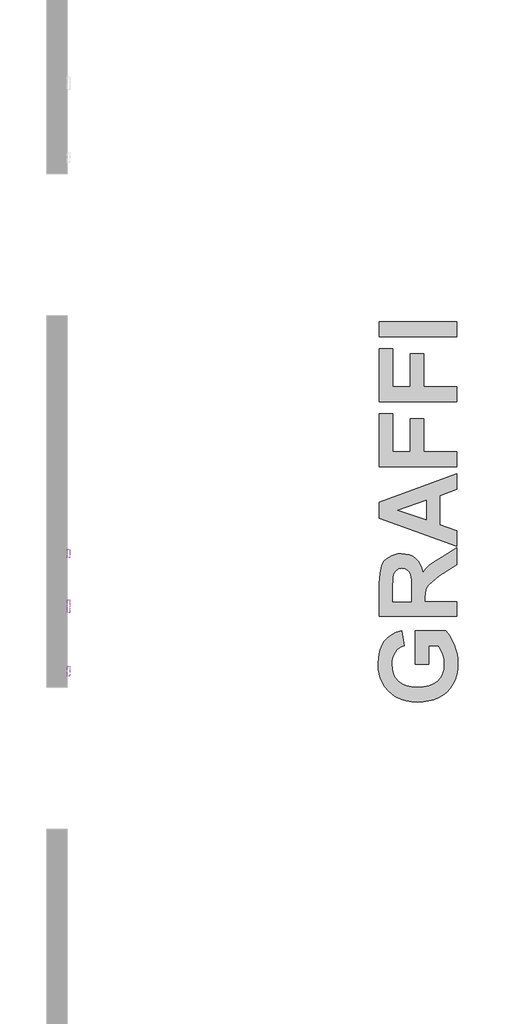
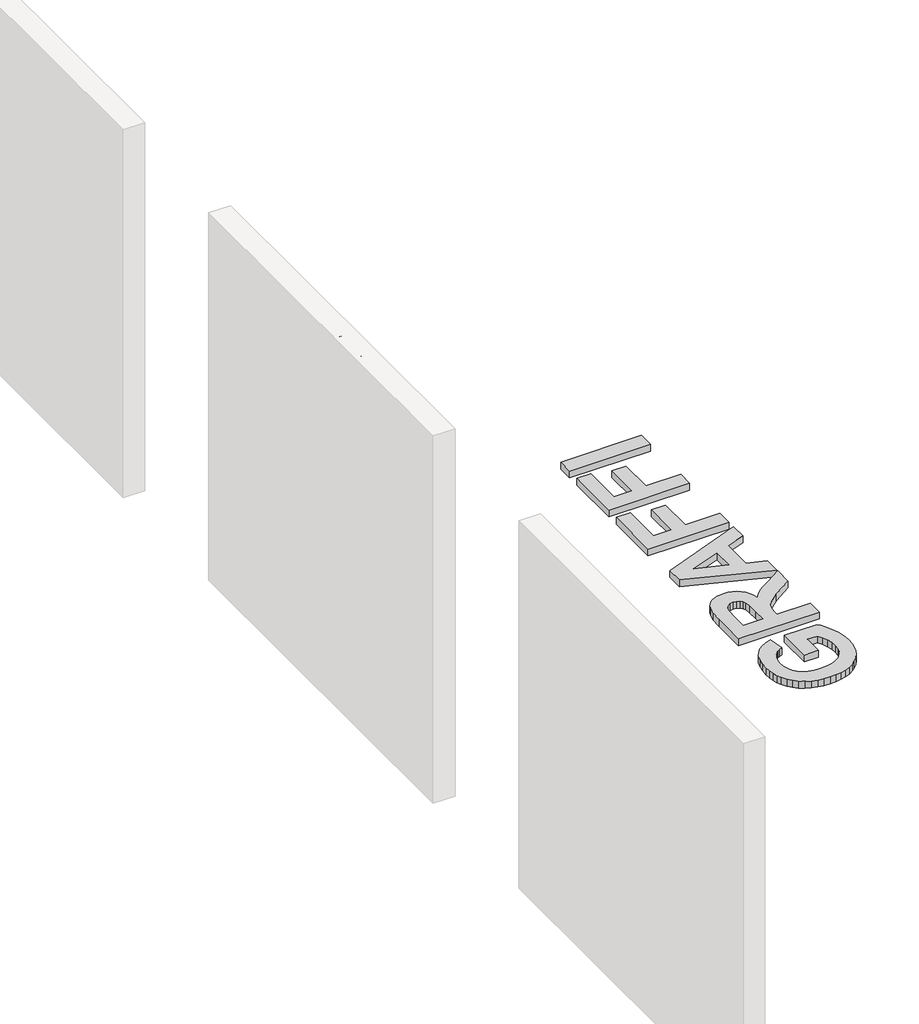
# One storey, part 6 of 17: 4 proxies.
"""IFC4 building model written with IfcOpenShell, lengths in millimetres."""

from ifc_helpers import new_model, si_unit, frame, origin, origin_with_axes, place, context, project, spatial, polyline, outline, extrude, element, save

model = new_model("IFC4")

# Units and contexts
model_context = context("Model", 3, world=origin())
ifc_project = project(units=[si_unit("LENGTHUNIT", "METRE", prefix="MILLI")], contexts=[model_context])

# Site, building, storey
site = spatial("IfcSite", under=ifc_project)
building = spatial("IfcBuilding", under=site)
storey = spatial("IfcBuildingStorey", under=building, Name="PORTOBELLO - SHOWROOM", Elevation=0.0)

# Proxies
placement = place(None, origin())
element("IfcBuildingElementProxy", 1, Name="10mm Arial", ObjectType="10mm Arial", at=placement, inside=storey, context=model_context, shape_type="SweptSolid", body=[
    extrude(outline(polyline([(-3885.2757787, 2518.4745677), (-3925.2277634, 2618.9308778), (-3911.7878078, 2618.9308778), (-3885.030524, 2546.5562266), (-3879.610396, 2530.2467915), (-3874.2638443, 2546.5562266), (-3847.4329841, 2618.9308778), (-3834.017554, 2618.9308778), (-3872.3263325, 2518.4745677), (-3885.2757787, 2518.4745677)])), frame((-7622.2794626, 0.0, 0.0), z_axis=(1.0, 0.0, 0.0), x_axis=(0.0, 1.0, 0.0)), (0.0, 0.0, 1.0), 20.0),
    extrude(outline(polyline([(-3776.7996411, 2527.8923467), (-3788.9765351, 2519.3820099), (-3802.4287534, 2516.9049378), (-3812.9225873, 2518.3948599), (-3820.6634376, 2522.8646261), (-3825.4367065, 2529.6520489), (-3827.0277961, 2538.0949407), (-3824.6243004, 2548.0277546), (-3818.3089928, 2555.2382417), (-3809.5166132, 2559.3585201), (-3798.6518316, 2561.246981), (-3776.8732175, 2565.563463), (-3776.7996411, 2568.3593662), (-3780.2577318, 2577.6299925), (-3794.1391458, 2581.2597615), (-3806.8433373, 2578.8440031), (-3812.9011275, 2570.2723526), (-3825.4581663, 2571.8419824), (-3820.0257755, 2584.1047156), (-3809.0874175, 2591.2906772), (-3792.520465, 2593.8168003), (-3777.3024131, 2591.5849828), (-3768.7062372, 2585.9809138), (-3764.855739, 2577.4583142), (-3764.2426023, 2566.4709053), (-3764.2426023, 2550.8481832), (-3763.6049402, 2529.0327809), (-3761.1033426, 2518.4745677), (-3773.6603814, 2518.4745677), (-3776.7996411, 2527.8923467)]), holes=[polyline([(-3776.7996411, 2553.0064243), (-3797.0576763, 2549.1559261), (-3807.8611442, 2547.1203124), (-3812.7539747, 2543.8093744), (-3814.4707574, 2538.9778575), (-3810.7306237, 2532.1843033), (-3799.7554776, 2529.4619766), (-3787.051286, 2532.4663462), (-3778.8597802, 2539.738147), (-3776.8732175, 2549.4502317), (-3776.7996411, 2553.0064243)])]), frame((-7622.2794626, 0.0, 0.0), z_axis=(1.0, 0.0, 0.0), x_axis=(0.0, 1.0, 0.0)), (0.0, 0.0, 1.0), 20.0),
    extrude(outline(polyline([(-3746.976674, 2518.4745677), (-3746.976674, 2592.2471704), (-3734.4196352, 2592.2471704), (-3734.4196352, 2581.9464746), (-3724.8179151, 2590.8492188), (-3711.7090534, 2593.8168003), (-3699.8509904, 2591.4255673), (-3691.7575865, 2585.1470479), (-3687.9929274, 2575.9132098), (-3687.3307398, 2563.773104), (-3687.3307398, 2518.4745677), (-3699.8877786, 2518.4745677), (-3699.8877786, 2562.0808468), (-3701.3347811, 2573.1908831), (-3706.4483408, 2579.0647323), (-3715.0690423, 2581.2597615), (-3728.6929388, 2576.3301428), (-3732.9879611, 2569.1871007), (-3734.4196352, 2557.6172119), (-3734.4196352, 2518.4745677), (-3746.976674, 2518.4745677)])), frame((-7622.2794626, 0.0, 0.0), z_axis=(1.0, 0.0, 0.0), x_axis=(0.0, 1.0, 0.0)), (0.0, 0.0, 1.0), 20.0),
    extrude(outline(polyline([(-7602.2794626, -3657.5077728), (-7602.2794626, -3670.0648115), (-7622.2794626, -3670.0648115), (-7622.2794626, -3657.5077728), (-7602.2794626, -3657.5077728)])), frame((0.0, 0.0, 2606.373839), z_axis=(0.0, 0.0, 1.0), x_axis=(1.0, 0.0, 0.0)), (0.0, 0.0, 1.0), 12.5570388),
    extrude(outline(polyline([(-7602.2794626, -3657.5077728), (-7602.2794626, -3670.0648115), (-7622.2794626, -3670.0648115), (-7622.2794626, -3657.5077728), (-7602.2794626, -3657.5077728)])), frame((0.0, 0.0, 2518.4745677), z_axis=(0.0, 0.0, 1.0), x_axis=(1.0, 0.0, 0.0)), (0.0, 0.0, 1.0), 73.7726028),
    extrude(outline(polyline([(-7602.2794626, -3626.1151758), (-7602.2794626, -3638.6722146), (-7622.2794626, -3638.6722146), (-7622.2794626, -3626.1151758), (-7602.2794626, -3626.1151758)])), frame((0.0, 0.0, 2518.4745677), z_axis=(0.0, 0.0, 1.0), x_axis=(1.0, 0.0, 0.0)), (0.0, 0.0, 1.0), 100.4563101),
    extrude(outline(polyline([(-7602.2794626, -3594.7225789), (-7602.2794626, -3607.2796177), (-7622.2794626, -3607.2796177), (-7622.2794626, -3594.7225789), (-7602.2794626, -3594.7225789)])), frame((0.0, 0.0, 2518.4745677), z_axis=(0.0, 0.0, 1.0), x_axis=(1.0, 0.0, 0.0)), (0.0, 0.0, 1.0), 100.4563101),
    extrude(outline(polyline([(-3528.7981254, 2527.8923467), (-3540.9750194, 2519.3820099), (-3554.4272377, 2516.9049378), (-3564.9210716, 2518.3948599), (-3572.6619219, 2522.8646261), (-3577.4351908, 2529.6520489), (-3579.0262805, 2538.0949407), (-3576.6227848, 2548.0277546), (-3570.3074772, 2555.2382417), (-3561.5150975, 2559.3585201), (-3550.6503159, 2561.246981), (-3528.8717018, 2565.563463), (-3528.7981254, 2568.3593662), (-3532.2562161, 2577.6299925), (-3546.1376301, 2581.2597615), (-3558.8418217, 2578.8440031), (-3564.8996118, 2570.2723526), (-3577.4566506, 2571.8419824), (-3572.0242598, 2584.1047156), (-3561.0859018, 2591.2906772), (-3544.5189493, 2593.8168003), (-3529.3008974, 2591.5849828), (-3520.7047215, 2585.9809138), (-3516.8542233, 2577.4583142), (-3516.2410866, 2566.4709053), (-3516.2410866, 2550.8481832), (-3515.6034245, 2529.0327809), (-3513.1018269, 2518.4745677), (-3525.6588657, 2518.4745677), (-3528.7981254, 2527.8923467)]), holes=[polyline([(-3528.7981254, 2553.0064243), (-3549.0561606, 2549.1559261), (-3559.8596285, 2547.1203124), (-3564.752459, 2543.8093744), (-3566.4692417, 2538.9778575), (-3562.7291081, 2532.1843033), (-3551.7539619, 2529.4619766), (-3539.0497703, 2532.4663462), (-3530.8582646, 2539.738147), (-3528.8717018, 2549.4502317), (-3528.7981254, 2553.0064243)])]), frame((-7622.2794626, 0.0, 0.0), z_axis=(1.0, 0.0, 0.0), x_axis=(0.0, 1.0, 0.0)), (0.0, 0.0, 1.0), 20.0),
    extrude(outline(polyline([(-3411.0758869, 2557.7153138), (-3411.0758869, 2570.2723526), (-3370.2655109, 2570.2723526), (-3370.2655109, 2532.7238636), (-3390.4131815, 2520.8780634), (-3411.713549, 2516.9049378), (-3425.8003638, 2518.4837647), (-3438.5321465, 2523.2202454), (-3449.1087539, 2530.948833), (-3456.7300425, 2541.5039806), (-3461.3377645, 2554.1652526), (-3462.8736718, 2568.2122134), (-3461.3438959, 2582.3603418), (-3456.754568, 2595.5213202), (-3449.2957605, 2606.5608457), (-3439.1575459, 2614.3446156), (-3426.8089736, 2618.9615346), (-3412.7190932, 2620.5005077), (-3393.0741946, 2616.9320523), (-3379.3031453, 2606.9992384), (-3371.7125134, 2590.383235), (-3383.2885336, 2587.121348), (-3389.0152299, 2598.7341563), (-3398.800891, 2605.4296086), (-3412.9152969, 2607.9434689), (-3428.9917401, 2605.2334049), (-3439.9300981, 2598.1210196), (-3446.3925585, 2588.4457231), (-3450.3166331, 2568.7272482), (-3445.5954808, 2546.8382695), (-3431.8612196, 2533.7416705), (-3412.7190932, 2529.4619766), (-3395.539004, 2532.6870754), (-3382.8225497, 2539.5664687), (-3382.8225497, 2557.7153138), (-3411.0758869, 2557.7153138)])), frame((-7622.2794626, 0.0, 0.0), z_axis=(1.0, 0.0, 0.0), x_axis=(0.0, 1.0, 0.0)), (0.0, 0.0, 1.0), 20.0),
    extrude(outline(polyline([(-3351.4299528, 2518.4745677), (-3351.4299528, 2592.2471704), (-3340.4425438, 2592.2471704), (-3340.4425438, 2581.3333379), (-3332.6434456, 2591.3887791), (-3324.7952963, 2593.8168003), (-3312.1892066, 2589.9417766), (-3316.3830614, 2578.6845875), (-3325.2122292, 2581.2597615), (-3332.3123518, 2578.7826894), (-3336.8373003, 2571.9155588), (-3338.872914, 2557.24933), (-3338.872914, 2518.4745677), (-3351.4299528, 2518.4745677)])), frame((-7622.2794626, 0.0, 0.0), z_axis=(1.0, 0.0, 0.0), x_axis=(0.0, 1.0, 0.0)), (0.0, 0.0, 1.0), 20.0),
    extrude(outline(polyline([(-3257.252162, 2527.8923467), (-3269.429056, 2519.3820099), (-3282.8812743, 2516.9049378), (-3293.3751082, 2518.3948599), (-3301.1159586, 2522.8646261), (-3305.8892275, 2529.6520489), (-3307.4803171, 2538.0949407), (-3305.0768214, 2548.0277546), (-3298.7615138, 2555.2382417), (-3289.9691341, 2559.3585201), (-3279.1043525, 2561.246981), (-3257.3257384, 2565.563463), (-3257.252162, 2568.3593662), (-3260.7102528, 2577.6299925), (-3274.5916667, 2581.2597615), (-3287.2958583, 2578.8440031), (-3293.3536485, 2570.2723526), (-3305.9106872, 2571.8419824), (-3300.4782964, 2584.1047156), (-3289.5399384, 2591.2906772), (-3272.9729859, 2593.8168003), (-3257.7549341, 2591.5849828), (-3249.1587581, 2585.9809138), (-3245.3082599, 2577.4583142), (-3244.6951232, 2566.4709053), (-3244.6951232, 2550.8481832), (-3244.0574611, 2529.0327809), (-3241.5558635, 2518.4745677), (-3254.1129023, 2518.4745677), (-3257.252162, 2527.8923467)]), holes=[polyline([(-3257.252162, 2553.0064243), (-3277.5101972, 2549.1559261), (-3288.3136651, 2547.1203124), (-3293.2064957, 2543.8093744), (-3294.9232783, 2538.9778575), (-3291.1831447, 2532.1843033), (-3280.2079985, 2529.4619766), (-3267.5038069, 2532.4663462), (-3259.3123012, 2539.738147), (-3257.3257384, 2549.4502317), (-3257.252162, 2553.0064243)])]), frame((-7622.2794626, 0.0, 0.0), z_axis=(1.0, 0.0, 0.0), x_axis=(0.0, 1.0, 0.0)), (0.0, 0.0, 1.0), 20.0),
    extrude(outline(polyline([(-3183.4795592, 2518.4745677), (-3183.4795592, 2579.6901317), (-3194.4669682, 2579.6901317), (-3194.4669682, 2592.2471704), (-3183.4795592, 2592.2471704), (-3183.4795592, 2599.6783867), (-3182.1551841, 2610.1507609), (-3175.7295119, 2617.6310281), (-3163.0743712, 2620.5005077), (-3151.6209785, 2619.1270815), (-3153.4603884, 2607.3548577), (-3160.695401, 2607.9434689), (-3168.6048639, 2605.8588043), (-3170.9225205, 2598.0842314), (-3170.9225205, 2592.2471704), (-3156.7958519, 2592.2471704), (-3156.7958519, 2579.6901317), (-3170.9225205, 2579.6901317), (-3170.9225205, 2518.4745677), (-3183.4795592, 2518.4745677)])), frame((-7622.2794626, 0.0, 0.0), z_axis=(1.0, 0.0, 0.0), x_axis=(0.0, 1.0, 0.0)), (0.0, 0.0, 1.0), 20.0),
    extrude(outline(polyline([(-3224.2899352, 2518.4745677), (-3224.2899352, 2579.6901317), (-3235.2773442, 2579.6901317), (-3235.2773442, 2592.2471704), (-3224.2899352, 2592.2471704), (-3224.2899352, 2599.6783867), (-3222.9655601, 2610.1507609), (-3216.5398879, 2617.6310281), (-3203.8847472, 2620.5005077), (-3192.4313545, 2619.1270815), (-3194.2707644, 2607.3548577), (-3201.505777, 2607.9434689), (-3209.4152399, 2605.8588043), (-3211.7328965, 2598.0842314), (-3211.7328965, 2592.2471704), (-3197.6062279, 2592.2471704), (-3197.6062279, 2579.6901317), (-3211.7328965, 2579.6901317), (-3211.7328965, 2518.4745677), (-3224.2899352, 2518.4745677)])), frame((-7622.2794626, 0.0, 0.0), z_axis=(1.0, 0.0, 0.0), x_axis=(0.0, 1.0, 0.0)), (0.0, 0.0, 1.0), 20.0),
    extrude(outline(polyline([(-7602.2794626, -3133.2514042), (-7602.2794626, -3145.8084429), (-7622.2794626, -3145.8084429), (-7622.2794626, -3133.2514042), (-7602.2794626, -3133.2514042)])), frame((0.0, 0.0, 2606.373839), z_axis=(0.0, 0.0, 1.0), x_axis=(1.0, 0.0, 0.0)), (0.0, 0.0, 1.0), 12.5570388),
    extrude(outline(polyline([(-7602.2794626, -3133.2514042), (-7602.2794626, -3145.8084429), (-7622.2794626, -3145.8084429), (-7622.2794626, -3133.2514042), (-7602.2794626, -3133.2514042)])), frame((0.0, 0.0, 2518.4745677), z_axis=(0.0, 0.0, 1.0), x_axis=(1.0, 0.0, 0.0)), (0.0, 0.0, 1.0), 73.7726028),
])
element("IfcBuildingElementProxy", 2, Name="10mm Arial", ObjectType="10mm Arial", at=placement, inside=storey, context=model_context, shape_type="SweptSolid", body=[
    extrude(outline(polyline([(-3878.8255811, 2393.4745677), (-3878.8255811, 2417.0190154), (-3924.3448466, 2417.0190154), (-3924.3448466, 2429.5760541), (-3875.6863214, 2492.361248), (-3866.2685423, 2492.361248), (-3866.2685423, 2429.5760541), (-3853.7115035, 2429.5760541), (-3853.7115035, 2417.0190154), (-3866.2685423, 2417.0190154), (-3866.2685423, 2393.4745677), (-3878.8255811, 2393.4745677)]), holes=[polyline([(-3878.8255811, 2429.5760541), (-3878.8255811, 2468.3753419), (-3908.8938028, 2429.5760541), (-3878.8255811, 2429.5760541)])]), frame((-7622.2794626, 0.0, 0.0), z_axis=(1.0, 0.0, 0.0), x_axis=(0.0, 1.0, 0.0)), (0.0, 0.0, 1.0), 20.0),
    extrude(outline(polyline([(-3842.7240946, 2420.158275), (-3830.1670558, 2421.7279049), (-3823.8394855, 2408.7907214), (-3810.718361, 2404.4619766), (-3801.7175149, 2405.9672271), (-3794.9730116, 2410.4829786), (-3790.7607628, 2417.4880649), (-3789.3566798, 2426.4613199), (-3794.6173924, 2441.3728034), (-3801.2239399, 2445.4746877), (-3810.5221573, 2446.8419824), (-3821.5463544, 2444.6592159), (-3828.597426, 2438.9938332), (-3841.1544648, 2440.563463), (-3830.1670558, 2492.361248), (-3781.5085306, 2492.361248), (-3781.5085306, 2479.8042092), (-3820.0135128, 2479.8042092), (-3825.4091154, 2452.1394832), (-3816.438926, 2457.5841367), (-3807.0395411, 2459.3990212), (-3795.3041054, 2457.1488097), (-3785.5552325, 2450.3981751), (-3778.9885389, 2440.1097419), (-3776.7996411, 2427.2461348), (-3778.7678097, 2414.6890961), (-3784.6723158, 2403.9469418), (-3795.9785557, 2394.9154388), (-3810.7674119, 2391.9049378), (-3823.1006558, 2393.839384), (-3832.9261708, 2399.6427224), (-3839.661477, 2408.6405029), (-3842.7240946, 2420.158275)])), frame((-7622.2794626, 0.0, 0.0), z_axis=(1.0, 0.0, 0.0), x_axis=(0.0, 1.0, 0.0)), (0.0, 0.0, 1.0), 20.0),
    extrude(outline(polyline([(-3770.5211217, 2393.4745677), (-3743.6902615, 2430.5815982), (-3768.9514918, 2467.2471704), (-3753.8928555, 2467.2471704), (-3741.7036987, 2449.5643092), (-3735.9892651, 2441.2501761), (-3731.0351209, 2448.0682557), (-3717.1537069, 2467.2471704), (-3702.0460196, 2467.2471704), (-3728.5825742, 2430.5570728), (-3703.0270383, 2393.4745677), (-3718.1102001, 2393.4745677), (-3733.512193, 2415.792742), (-3736.3080961, 2419.8884949), (-3755.4134344, 2393.4745677), (-3770.5211217, 2393.4745677)])), frame((-7622.2794626, 0.0, 0.0), z_axis=(1.0, 0.0, 0.0), x_axis=(0.0, 1.0, 0.0)), (0.0, 0.0, 1.0), 20.0),
    extrude(outline(polyline([(-3648.0899937, 2393.4745677), (-3660.6470325, 2393.4745677), (-3660.6470325, 2471.7598562), (-3672.5418836, 2463.2863076), (-3685.76111, 2456.9464746), (-3685.76111, 2468.8168003), (-3667.3547475, 2480.5644987), (-3656.1833976, 2493.9308778), (-3648.0899937, 2493.9308778), (-3648.0899937, 2393.4745677)])), frame((-7622.2794626, 0.0, 0.0), z_axis=(1.0, 0.0, 0.0), x_axis=(0.0, 1.0, 0.0)), (0.0, 0.0, 1.0), 20.0),
    extrude(outline(polyline([(-3553.9122029, 2406.0316064), (-3553.9122029, 2393.4745677), (-3619.8366565, 2393.4745677), (-3618.4877558, 2402.1320573), (-3610.848073, 2415.4616482), (-3595.1149864, 2430.0175125), (-3573.4467369, 2450.9377353), (-3568.0388715, 2465.1625058), (-3573.1524313, 2476.6772122), (-3586.5065477, 2481.373839), (-3600.4247498, 2476.7875768), (-3605.7099878, 2464.1079107), (-3618.2670266, 2465.6775406), (-3615.2228031, 2477.8237778), (-3608.6407811, 2486.6958652), (-3598.864317, 2492.1221247), (-3586.2367676, 2493.9308778), (-3573.5172476, 2491.9197896), (-3563.7591777, 2485.8865249), (-3557.551169, 2476.873416), (-3555.4818328, 2465.9227952), (-3557.7136502, 2454.0156813), (-3565.1326038, 2441.7038972), (-3583.1220333, 2424.4992826), (-3597.567533, 2412.4204904), (-3603.2329157, 2406.0316064), (-3553.9122029, 2406.0316064)])), frame((-7622.2794626, 0.0, 0.0), z_axis=(1.0, 0.0, 0.0), x_axis=(0.0, 1.0, 0.0)), (0.0, 0.0, 1.0), 20.0),
    extrude(outline(polyline([(-3541.3551641, 2442.8933823), (-3537.6640815, 2471.7966444), (-3526.701198, 2488.4616988), (-3508.3929374, 2493.9308778), (-3493.7267085, 2490.6935163), (-3483.5976909, 2481.3615763), (-3477.711579, 2466.4991437), (-3475.4307106, 2442.8933823), (-3479.0850051, 2414.1127476), (-3490.0111004, 2397.410905), (-3498.24246, 2393.2814296), (-3508.3929374, 2391.9049378), (-3521.4404855, 2394.2961708), (-3531.3487739, 2401.4698697), (-3538.8535666, 2418.4598865), (-3541.3551641, 2442.8933823)]), holes=[polyline([(-3528.7981254, 2442.9179078), (-3527.3265974, 2423.1657104), (-3522.9120135, 2411.7337774), (-3516.3391885, 2406.2799268), (-3508.3929374, 2404.4619766), (-3500.4466863, 2406.2860581), (-3493.8738613, 2411.7583028), (-3489.4592774, 2423.1963672), (-3487.9877494, 2442.9179078), (-3489.4102264, 2462.2255812), (-3493.6776576, 2473.746419), (-3500.2382198, 2479.466984), (-3508.5400902, 2481.373839), (-3516.4005021, 2479.6938446), (-3522.7158097, 2474.6538613), (-3527.2775465, 2462.4156536), (-3528.7981254, 2442.9179078)])]), frame((-7622.2794626, 0.0, 0.0), z_axis=(1.0, 0.0, 0.0), x_axis=(0.0, 1.0, 0.0)), (0.0, 0.0, 1.0), 20.0),
])
element("IfcBuildingElementProxy", 3, Name="10mm Arial Narrow", ObjectType="10mm Arial Narrow", at=placement, inside=storey, context=model_context, shape_type="SweptSolid", body=[
    extrude(outline(polyline([(-3065.7471538, 2518.4745677), (-3065.7471538, 2619.1931714), (-3034.4502692, 2619.1931714), (-3018.1545677, 2617.3148507), (-3006.6815815, 2607.8344075), (-3002.3919031, 2590.8152987), (-3004.1782115, 2578.7394731), (-3009.5371367, 2569.1130794), (-3019.2809255, 2562.811821), (-3034.2218248, 2560.7114015), (-3056.0001922, 2560.7114015), (-3056.0001922, 2518.4745677), (-3065.7471538, 2518.4745677)]), holes=[polyline([(-3056.0001922, 2572.0828568), (-3033.0288373, 2572.0828568), (-3017.1646419, 2576.613671), (-3012.1388648, 2590.2822617), (-3014.6136792, 2600.4480381), (-3020.5913081, 2606.247988), (-3033.2572817, 2607.8217162), (-3056.0001922, 2607.8217162), (-3056.0001922, 2572.0828568)])]), frame((-7622.2794626, 0.0, 0.0), z_axis=(1.0, 0.0, 0.0), x_axis=(0.0, 1.0, 0.0)), (0.0, 0.0, 1.0), 20.0),
    extrude(outline(polyline([(-2994.2694351, 2555.0256739), (-2992.3149662, 2571.6164494), (-2986.4515596, 2583.5685342), (-2977.5929929, 2590.7930888), (-2966.6530437, 2593.2012737), (-2955.8400081, 2590.7930888), (-2946.9560587, 2583.5685342), (-2941.0165039, 2571.8068198), (-2939.0366524, 2555.7871552), (-2940.9816027, 2538.6252687), (-2946.8164538, 2526.4828135), (-2955.665502, 2519.2582589), (-2966.6530437, 2516.8500741), (-2977.5136719, 2519.2646046), (-2986.3881028, 2526.5081962), (-2992.299102, 2538.4666267), (-2994.2694351, 2555.0256739)]), holes=[polyline([(-2984.5224734, 2555.0510566), (-2983.2184365, 2542.4993052), (-2979.306326, 2533.6280471), (-2973.4651292, 2528.3547886), (-2966.3738339, 2526.5970357), (-2959.6537607, 2528.3706528), (-2953.9616874, 2533.6915039), (-2950.0781324, 2542.5786262), (-2948.783614, 2555.0510566), (-2950.0876509, 2567.5647339), (-2953.9997615, 2576.4233006), (-2959.8409582, 2581.6965592), (-2966.9322535, 2583.454312), (-2973.6999193, 2581.6870407), (-2979.3824741, 2576.3852265), (-2983.2374736, 2567.5171413), (-2984.5224734, 2555.0510566)])]), frame((-7622.2794626, 0.0, 0.0), z_axis=(1.0, 0.0, 0.0), x_axis=(0.0, 1.0, 0.0)), (0.0, 0.0, 1.0), 20.0),
    extrude(outline(polyline([(-2867.5589336, 2526.5970357), (-2865.93444, 2516.8500741), (-2873.2954266, 2516.8500741), (-2881.5701909, 2518.9695306), (-2885.8852521, 2524.7694804), (-2887.0528569, 2539.4153056), (-2887.0528569, 2581.8298184), (-2895.1753249, 2581.8298184), (-2895.1753249, 2585.0788056), (-2896.7998185, 2580.2053248), (-2904.3638669, 2581.8298184), (-2910.4430266, 2579.5073002), (-2914.3138902, 2573.0220171), (-2916.2937418, 2557.6147106), (-2916.2937418, 2518.4745677), (-2926.0407035, 2518.4745677), (-2926.0407035, 2591.5767801), (-2916.2937418, 2591.5767801), (-2916.2937418, 2581.8805838), (-2910.0495945, 2590.967595), (-2903.6531509, 2593.2012737), (-2895.1753249, 2591.5767801), (-2887.0528569, 2591.5767801), (-2887.0528569, 2607.8217162), (-2877.3058952, 2615.9441842), (-2877.3058952, 2591.5767801), (-2867.5589336, 2591.5767801), (-2867.5589336, 2581.8298184), (-2877.3058952, 2581.8298184), (-2877.3058952, 2537.1816269), (-2876.442883, 2529.1860724), (-2871.8232293, 2526.5970357), (-2867.5589336, 2526.5970357)])), frame((-7622.2794626, 0.0, 0.0), z_axis=(1.0, 0.0, 0.0), x_axis=(0.0, 1.0, 0.0)), (0.0, 0.0, 1.0), 20.0),
    extrude(outline(polyline([(-2861.0609591, 2555.0256739), (-2859.1064903, 2571.6164494), (-2853.2430836, 2583.5685342), (-2844.3845169, 2590.7930888), (-2833.4445678, 2593.2012737), (-2822.6315322, 2590.7930888), (-2813.7475828, 2583.5685342), (-2807.808028, 2571.8068198), (-2805.8281764, 2555.7871552), (-2807.7731268, 2538.6252687), (-2813.6079778, 2526.4828135), (-2822.457026, 2519.2582589), (-2833.4445678, 2516.8500741), (-2844.3051959, 2519.2646046), (-2853.1796269, 2526.5081962), (-2859.0906261, 2538.4666267), (-2861.0609591, 2555.0256739)]), holes=[polyline([(-2851.3139975, 2555.0510566), (-2850.0099606, 2542.4993052), (-2846.09785, 2533.6280471), (-2840.2566533, 2528.3547886), (-2833.1653579, 2526.5970357), (-2826.4452848, 2528.3706528), (-2820.7532115, 2533.6915039), (-2816.8696564, 2542.5786262), (-2815.5751381, 2555.0510566), (-2816.8791749, 2567.5647339), (-2820.7912855, 2576.4233006), (-2826.6324823, 2581.6965592), (-2833.7237776, 2583.454312), (-2840.4914434, 2581.6870407), (-2846.1739982, 2576.3852265), (-2850.0289976, 2567.5171413), (-2851.3139975, 2555.0510566)])]), frame((-7622.2794626, 0.0, 0.0), z_axis=(1.0, 0.0, 0.0), x_axis=(0.0, 1.0, 0.0)), (0.0, 0.0, 1.0), 20.0),
    extrude(outline(polyline([(-2783.0852659, 2518.4745677), (-2792.8322276, 2518.4745677), (-2792.8322276, 2619.1931714), (-2783.0852659, 2619.1931714), (-2783.0852659, 2583.7842873), (-2775.6862052, 2590.8660641), (-2766.4849718, 2593.2012737), (-2753.6032452, 2589.0004347), (-2744.3258637, 2576.2710043), (-2740.8484321, 2555.5840935), (-2742.7806911, 2539.1297501), (-2748.5774681, 2526.927011), (-2756.9505904, 2519.3693083), (-2766.6118854, 2516.8500741), (-2775.9527236, 2519.4644935), (-2783.0852659, 2527.2316035), (-2783.0852659, 2518.4745677)]), holes=[polyline([(-2783.0852659, 2555.5840935), (-2781.0038835, 2538.3365403), (-2775.1150941, 2529.6048872), (-2766.6626508, 2526.5970357), (-2760.7199232, 2528.3865169), (-2755.4815659, 2533.7549607), (-2750.5953937, 2555.1779701), (-2755.3038869, 2576.613671), (-2760.5485899, 2581.7441518), (-2766.8657125, 2583.454312), (-2772.8433413, 2581.6648308), (-2778.1356369, 2576.2963871), (-2783.0852659, 2555.5840935)])]), frame((-7622.2794626, 0.0, 0.0), z_axis=(1.0, 0.0, 0.0), x_axis=(0.0, 1.0, 0.0)), (0.0, 0.0, 1.0), 20.0),
    extrude(outline(polyline([(-2688.8646366, 2541.2174782), (-2679.1176749, 2539.5929846), (-2682.8172053, 2529.706418), (-2688.6361922, 2522.5865671), (-2696.3398455, 2518.2841973), (-2705.6933751, 2516.8500741), (-2717.2869291, 2519.2646046), (-2726.4310513, 2526.5081962), (-2732.370606, 2538.3143304), (-2734.3504576, 2554.4164888), (-2732.3610875, 2571.0834124), (-2726.3929772, 2583.2639417), (-2717.3789414, 2590.7169407), (-2706.2517947, 2593.2012737), (-2695.5688456, 2590.8026073), (-2686.8213282, 2583.6066083), (-2680.9864771, 2571.8671037), (-2679.0415268, 2555.8379207), (-2679.1176749, 2552.5889335), (-2724.603496, 2552.5889335), (-2718.6004844, 2533.1457756), (-2712.6704482, 2528.2342207), (-2705.5664615, 2526.5970357), (-2695.3879937, 2530.2521463), (-2688.8646366, 2541.2174782)]), holes=[polyline([(-2723.9435454, 2562.3358951), (-2688.8646366, 2562.3358951), (-2693.1289323, 2576.6009796), (-2698.9542649, 2581.7409789), (-2706.1756466, 2583.454312), (-2718.3847314, 2577.7432017), (-2723.9435454, 2562.3358951)])]), frame((-7622.2794626, 0.0, 0.0), z_axis=(1.0, 0.0, 0.0), x_axis=(0.0, 1.0, 0.0)), (0.0, 0.0, 1.0), 20.0),
    extrude(outline(polyline([(-7602.2794626, -2656.3747644), (-7602.2794626, -2666.1217261), (-7622.2794626, -2666.1217261), (-7622.2794626, -2656.3747644), (-7602.2794626, -2656.3747644)])), frame((0.0, 0.0, 2518.4745677), z_axis=(0.0, 0.0, 1.0), x_axis=(1.0, 0.0, 0.0)), (0.0, 0.0, 1.0), 100.7186038),
    extrude(outline(polyline([(-7602.2794626, -2630.3828667), (-7602.2794626, -2640.1298283), (-7622.2794626, -2640.1298283), (-7622.2794626, -2630.3828667), (-7602.2794626, -2630.3828667)])), frame((0.0, 0.0, 2518.4745677), z_axis=(0.0, 0.0, 1.0), x_axis=(1.0, 0.0, 0.0)), (0.0, 0.0, 1.0), 100.7186038),
    extrude(outline(polyline([(-2619.0114114, 2555.0256739), (-2617.0569425, 2571.6164494), (-2611.1935359, 2583.5685342), (-2602.3349692, 2590.7930888), (-2591.39502, 2593.2012737), (-2580.5819845, 2590.7930888), (-2571.698035, 2583.5685342), (-2565.7584803, 2571.8068198), (-2563.7786287, 2555.7871552), (-2565.723579, 2538.6252687), (-2571.5584301, 2526.4828135), (-2580.4074783, 2519.2582589), (-2591.39502, 2516.8500741), (-2602.2556482, 2519.2646046), (-2611.1300791, 2526.5081962), (-2617.0410783, 2538.4666267), (-2619.0114114, 2555.0256739)]), holes=[polyline([(-2609.2644497, 2555.0510566), (-2607.9604129, 2542.4993052), (-2604.0483023, 2533.6280471), (-2598.2071056, 2528.3547886), (-2591.1158102, 2526.5970357), (-2584.395737, 2528.3706528), (-2578.7036637, 2533.6915039), (-2574.8201087, 2542.5786262), (-2573.5255903, 2555.0510566), (-2574.8296272, 2567.5647339), (-2578.7417378, 2576.4233006), (-2584.5829345, 2581.6965592), (-2591.6742299, 2583.454312), (-2598.4418956, 2581.6870407), (-2604.1244504, 2576.3852265), (-2607.9794499, 2567.5171413), (-2609.2644497, 2555.0510566)])]), frame((-7622.2794626, 0.0, 0.0), z_axis=(1.0, 0.0, 0.0), x_axis=(0.0, 1.0, 0.0)), (0.0, 0.0, 1.0), 20.0),
])
element("IfcBuildingElementProxy", 4, Name="550mm Arial", ObjectType="550mm Arial", at=placement, inside=storey, context=model_context, shape_type="SweptSolid", body=[
    extrude(outline(polyline([(-4997.8011215, -3835.8270381), (-5095.7784131, -3835.8270381), (-5095.7784131, -3595.3373224), (-4871.9893721, -3595.3373224), (-4855.049495, -3614.8388395), (-4839.1621084, -3638.2719736), (-4810.5448064, -3696.9330935), (-4798.945666, -3730.2996499), (-4790.6605656, -3763.8749646), (-4785.6895054, -3797.6590378), (-4784.0324854, -3831.6518695), (-4786.3375264, -3873.5514268), (-4793.2526495, -3912.6849348), (-4804.7778547, -3949.0523937), (-4820.913142, -3982.6538032), (-4841.3323263, -4012.8715865), (-4865.7092226, -4039.0881665), (-4894.0438308, -4061.3035431), (-4926.336151, -4079.5177165), (-4961.3597274, -4093.7045917), (-4997.8881042, -4103.838074), (-5035.9212814, -4109.9181634), (-5075.4592589, -4111.9448599), (-5117.9459493, -4109.6528662), (-5158.0058229, -4102.7768853), (-5195.6388797, -4091.3169171), (-5230.8451198, -4075.2729617), (-5262.8590954, -4054.810286), (-5290.9153591, -4030.0941573), (-5315.0139108, -4001.1245755), (-5335.1547505, -3967.9015406), (-5347.3323258, -3939.3190317), (-5356.0305939, -3907.4311809), (-5361.2495547, -3872.2379883), (-5362.9892083, -3833.7394538), (-5360.1796678, -3784.4681143), (-5351.751046, -3740.8941404), (-5337.7033431, -3703.0175321), (-5318.0365589, -3670.8382893), (-5293.411762, -3644.1215589), (-5264.4900207, -3622.6324877), (-5231.2713349, -3606.3710755), (-5193.7557047, -3595.3373224), (-5175.9416517, -3702.2216405), (-5195.517104, -3709.8500216), (-5212.909291, -3720.2096589), (-5228.1182127, -3733.3005524), (-5241.1438692, -3749.122702), (-5251.58614, -3767.3803667), (-5259.0449049, -3787.7778053), (-5263.5201638, -3810.3150179), (-5265.0119168, -3834.9920044), (-5262.097997, -3871.968342), (-5253.3562375, -3904.9608728), (-5238.7866385, -3933.9695968), (-5218.3891999, -3958.9945141), (-5192.2509043, -3979.1484012), (-5160.4587345, -3993.5440349), (-5123.0126905, -4002.1814151), (-5079.9127722, -4005.0605418), (-5033.5292577, -4002.1988116), (-4993.3302117, -3993.613621), (-4959.3156344, -3979.30497), (-4931.4855257, -3959.2728586), (-4909.8398856, -3934.5958721), (-4894.3787141, -3906.3525957), (-4885.1020112, -3874.5430293), (-4882.0097769, -3839.1671731), (-4885.4021015, -3802.4778783), (-4895.5790751, -3765.6146182), (-4910.5922858, -3731.2912524), (-4928.4933215, -3702.2216405), (-4997.8011215, -3702.2216405), (-4997.8011215, -3835.8270381)])), origin_with_axes(), (0.0, 0.0, 1.0), 50.0),
    extrude(outline(polyline([(-4792.9395119, -3488.4530043), (-5354.0821818, -3488.4530043), (-5354.0821818, -3252.4168019), (-5350.289737, -3175.5241121), (-5338.9124023, -3122.986573), (-5329.848807, -3103.8155901), (-5317.8278005, -3086.6626055), (-5302.8493829, -3071.527619), (-5284.9135541, -3058.4106308), (-5264.7944601, -3047.8161403), (-5243.2662466, -3040.248647), (-5220.3289137, -3035.7081511), (-5195.9824613, -3034.1946525), (-5165.634204, -3036.3822669), (-5138.051996, -3042.9451101), (-5113.2358371, -3053.8831822), (-5091.1857276, -3069.1964832), (-5072.4322616, -3088.8676164), (-5057.5060336, -3112.8791855), (-5046.4070435, -3141.2311902), (-5039.1352914, -3173.9236308), (-5016.798139, -3142.9230034), (-4992.3734023, -3117.8371983), (-4956.9888477, -3091.8815663), (-4901.772242, -3058.2714585), (-4792.9395119, -2989.6595199), (-4792.9395119, -3114.4970633), (-4921.1171902, -3195.7736802), (-4997.1748462, -3259.5841748), (-5010.3788172, -3277.2938486), (-5018.6769649, -3296.0473146), (-5023.060892, -3320.9417578), (-5024.5222011, -3357.0743634), (-5024.5222011, -3381.5686863), (-4792.9395119, -3381.5686863), (-4792.9395119, -3488.4530043)]), holes=[polyline([(-5122.4994926, -3381.5686863), (-5122.4994926, -3293.4726272), (-5124.1173705, -3223.9386722), (-5128.9710041, -3186.518723), (-5137.7736514, -3167.4869124), (-5151.2385704, -3153.1173736), (-5169.0004338, -3144.0885713), (-5190.6939143, -3141.0789705), (-5214.7185308, -3145.0453808), (-5233.6285656, -3156.9446115), (-5246.9717088, -3176.0808013), (-5254.2956505, -3201.7580886), (-5256.1048903, -3288.6015971), (-5256.1048903, -3381.5686863), (-5122.4994926, -3381.5686863)])]), origin_with_axes(), (0.0, 0.0, 1.0), 50.0),
    extrude(outline(polyline([(-4792.9395119, -2455.2379295), (-4792.9395119, -2567.5499668), (-4917.637883, -2611.5284102), (-4917.637883, -2823.3486344), (-4792.9395119, -2866.7703886), (-4792.9395119, -2980.7524934), (-5354.0821818, -2776.1692283), (-5354.0821818, -2662.0479512), (-4792.9395119, -2455.2379295)]), holes=[polyline([(-5015.6151746, -2645.7647934), (-5220.4767842, -2717.9952114), (-5015.6151746, -2789.2514235), (-5015.6151746, -2645.7647934)])]), origin_with_axes(), (0.0, 0.0, 1.0), 50.0),
    extrude(outline(polyline([(-4792.9395119, -2401.7957704), (-5354.0821818, -2401.7957704), (-5354.0821818, -2018.7936306), (-5256.1048903, -2018.7936306), (-5256.1048903, -2294.9114523), (-5131.4065192, -2294.9114523), (-5131.4065192, -2054.4217366), (-5033.4292276, -2054.4217366), (-5033.4292276, -2294.9114523), (-4792.9395119, -2294.9114523), (-4792.9395119, -2401.7957704)])), origin_with_axes(), (0.0, 0.0, 1.0), 50.0),
    extrude(outline(polyline([(-4792.9395119, -1929.7233655), (-5354.0821818, -1929.7233655), (-5354.0821818, -1546.7212257), (-5256.1048903, -1546.7212257), (-5256.1048903, -1822.8390474), (-5131.4065192, -1822.8390474), (-5131.4065192, -1582.3493317), (-5033.4292276, -1582.3493317), (-5033.4292276, -1822.8390474), (-4792.9395119, -1822.8390474), (-4792.9395119, -1929.7233655)])), origin_with_axes(), (0.0, 0.0, 1.0), 50.0),
    extrude(outline(polyline([(-4792.9395119, -1457.6509606), (-5354.0821818, -1457.6509606), (-5354.0821818, -1350.7666425), (-4792.9395119, -1350.7666425), (-4792.9395119, -1457.6509606)])), origin_with_axes(), (0.0, 0.0, 1.0), 50.0),
])

save(model, "model.ifc")
